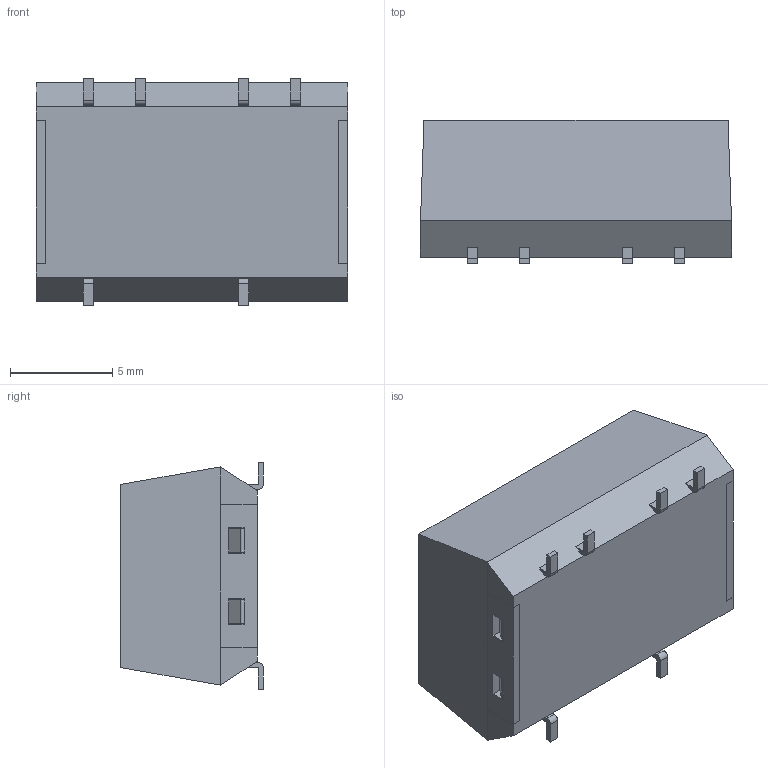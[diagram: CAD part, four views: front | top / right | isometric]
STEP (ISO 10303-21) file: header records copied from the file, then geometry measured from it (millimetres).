
FILE_DESCRIPTION (( 'STEP AP214' ), '1' );
FILE_NAME ('PBT01F-D.STEP', '2025-01-17T06:25:42', ( '' ), ( '' ), 'SwSTEP 2.0', 'SolidWorks 2022', '' );
FILE_SCHEMA (( 'AUTOMOTIVE_DESIGN' ));
Length unit declared in the file: millimetre
Products named in the file (11): Copy (2) of ^_PBT01F-D(2)_PBT01F-D; Copy (8) of ^_PBT01F-D(2)_PBT01F-D; ^PBT01F-D(2)_PBT01F-D; Copy (4) of ^_PBT01F-D(2)_PBT01F-D; Copy (3) of ^_PBT01F-D(2)_PBT01F-D; Copy (6) of ^_PBT01F-D(2)_PBT01F-D; Copy (7) of ^_PBT01F-D(2)_PBT01F-D; PBT01F-D(2)^PBT01F-D; ^_PBT01F-D(2)_PBT01F-D; Copy (5) of ^_PBT01F-D(2)_PBT01F-D; PBT01F-D
Assembly tree (10 placements, depth 4):
  PBT01F-D
    PBT01F-D(2)^PBT01F-D
      ^PBT01F-D(2)_PBT01F-D
        ^_PBT01F-D(2)_PBT01F-D
        Copy (2) of ^_PBT01F-D(2)_PBT01F-D
        Copy (3) of ^_PBT01F-D(2)_PBT01F-D
        Copy (4) of ^_PBT01F-D(2)_PBT01F-D
        Copy (5) of ^_PBT01F-D(2)_PBT01F-D
        Copy (6) of ^_PBT01F-D(2)_PBT01F-D
        Copy (7) of ^_PBT01F-D(2)_PBT01F-D
        Copy (8) of ^_PBT01F-D(2)_PBT01F-D
Bounding box: 15.24 x 7 x 11.1 mm (x, y, z)
Volume: 988.4 mm3; surface area: 998 mm2
Topology: 8 solids, 8 shells, 120 faces, 296 edges, 196 vertices
Faces by surface type: plane 110, cylinder 10
Entity records: 3930 total; most frequent: CARTESIAN_POINT 627, ORIENTED_EDGE 592, DIRECTION 586, EDGE_CURVE 296, LINE 276, VECTOR 276, VERTEX_POINT 196, AXIS2_PLACEMENT_3D 155
